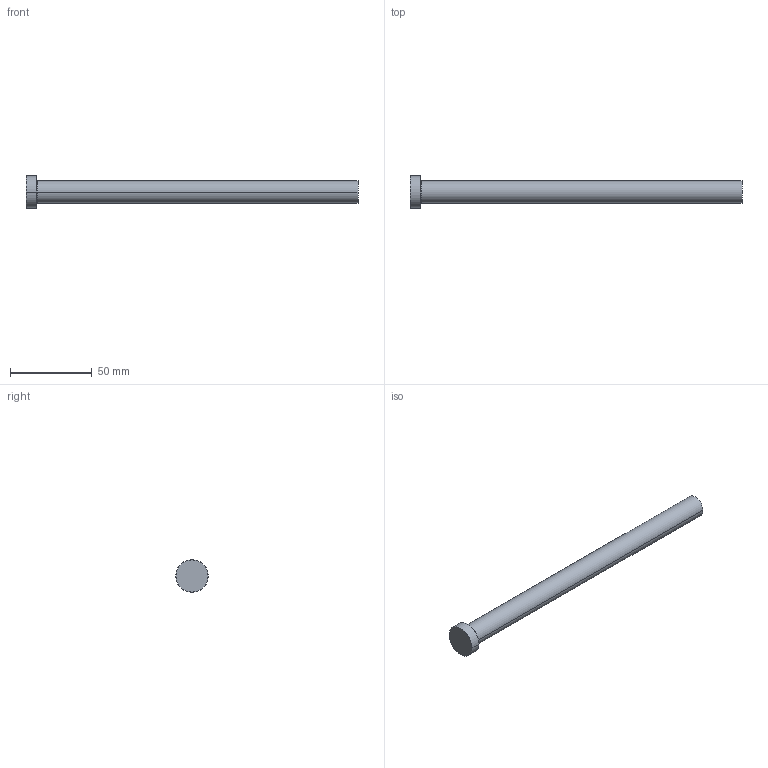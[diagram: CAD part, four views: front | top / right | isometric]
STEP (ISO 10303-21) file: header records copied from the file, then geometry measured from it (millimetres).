
FILE_DESCRIPTION (( 'STEP AP214' ), '1' );
FILE_NAME ('P34-8.STEP', '2020-03-12T11:50:50', ( '' ), ( '' ), 'SwSTEP 2.0', 'SolidWorks 2018', '' );
FILE_SCHEMA (( 'AUTOMOTIVE_DESIGN' ));
Length unit declared in the file: inch
Products named in the file (1): P34-8
Bounding box: 203.2 x 19.84 x 19.84 mm (x, y, z)
Volume: 30066.5 mm3; surface area: 9330.3 mm2
Topology: 1 solids, 1 shells, 13 faces, 24 edges, 14 vertices
Faces by surface type: cone 4, cylinder 4, plane 3, torus 2
Entity records: 366 total; most frequent: DIRECTION 68, CARTESIAN_POINT 52, ORIENTED_EDGE 48, AXIS2_PLACEMENT_3D 30, EDGE_CURVE 24, CIRCLE 16, EDGE_LOOP 14, VERTEX_POINT 14
